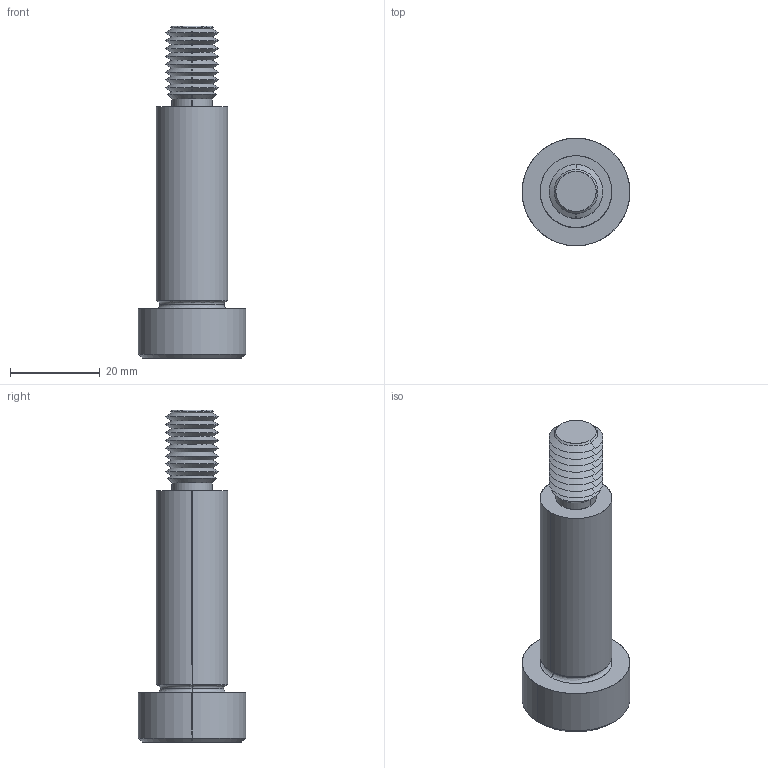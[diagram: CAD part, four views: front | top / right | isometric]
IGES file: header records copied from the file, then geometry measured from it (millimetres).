
Start section: SolidWorks IGES file using analytic representation for surfaces
Global section: file name: C:\Users\IanO\Documents\Temp Folder\GENERAL\SCREW REVISION\P0130_v2\P0130.T5_v2_20220106_IGES\P0130.160-045-T5.igs; native system: SolidWorks 2019; preprocessor: SolidWorks 2019; author: IanO; date: 220106.225435; units: millimetre
Bounding box: 24 x 24 x 74 mm (x, y, z)
Surface area: 5308.5 mm2 (no closed solid volume)
Topology: 0 solids, 0 shells, 76 faces, 588 edges, 586 vertices
Faces by surface type: revolution 56, bspline 20
